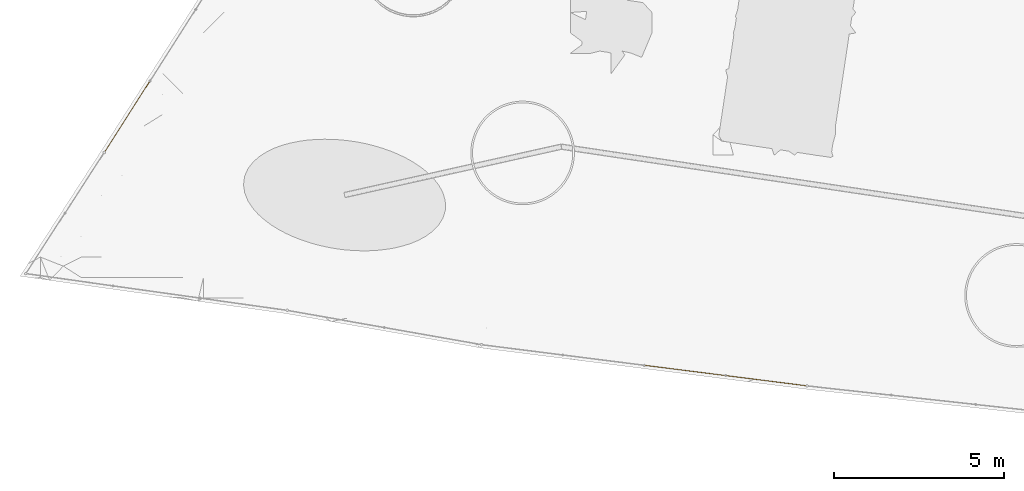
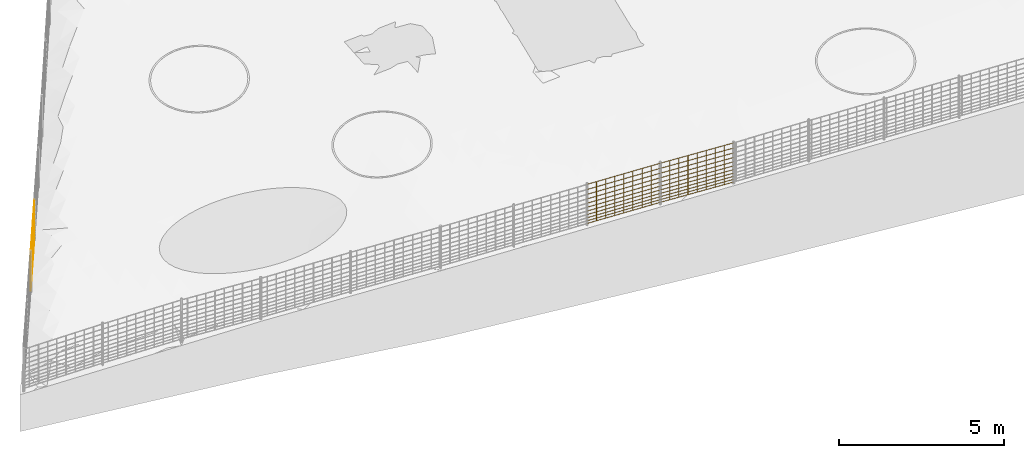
# Not in any storey, part 29 of 72: 3 railings.
"""IFC4 model written with IfcOpenShell, lengths in metres."""

from ifc_helpers import new_model, si_unit, direction, frame, origin_with_axes, place, context, subcontext, project, spatial, polygons, material, element, save


model = new_model("IFC4")

# Units and contexts
model_context = context("Model", 3, precision=1e-05, world=origin_with_axes(), true_north=direction((0.0, 1.0)))
body_context = subcontext(model_context, "Body", "Model", "MODEL_VIEW")
ifc_project = project(units=[si_unit("AREAUNIT", "SQUARE_METRE"), si_unit("VOLUMEUNIT", "CUBIC_METRE"), si_unit("LENGTHUNIT", "METRE")], contexts=[model_context])

# Site
site_placement = place(None, origin_with_axes())
site = spatial("IfcSite", under=ifc_project, at=site_placement, Name="Lares · Rua das Mercês · artigo 4771")

# Railings
ifc_material = material(Name="Aço galvanizado / Stahl verzinkt", Category="steel")
railing_1_placement = place(site_placement, frame((0.0, 0.0, 0.0), z_axis=(0.0, 0.0, 1.0), x_axis=(1.0, -1.03767253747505e-17, 0.0)))
element("IfcRailing", 1, at=railing_1_placement, inside=site, material=ifc_material, Name="Vedação · rede ovelheira 1.032", ObjectType="SHEEP_WIRE_FENCE", PredefinedType="USERDEFINED", context=body_context, shape_type="Tessellation", body=[
    polygons([(11.0596490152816, 1.65169743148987, 12.1058320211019), (11.0595225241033, 1.65020147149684, 12.1043333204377), (11.0592721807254, 1.64872119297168, 12.1058320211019), (11.0593986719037, 1.65021715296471, 12.1073307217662), (8.66400478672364, 1.95502040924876, 12.0052574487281), (8.66387829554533, 1.95352444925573, 12.0037587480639), (8.66362795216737, 1.95204417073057, 12.0052574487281), (8.66375444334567, 1.9535401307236, 12.0067561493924), (11.0596490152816, 1.65169743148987, 12.2058320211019), (11.0595225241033, 1.65020147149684, 12.2043333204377), (11.0592721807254, 1.64872119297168, 12.2058320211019), (11.0593986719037, 1.65021715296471, 12.2073307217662), (8.66400478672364, 1.95502040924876, 12.1052574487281), (8.66387829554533, 1.95352444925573, 12.1037587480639), (8.66362795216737, 1.95204417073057, 12.1052574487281), (8.66375444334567, 1.9535401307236, 12.1067561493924), (11.0596490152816, 1.65169743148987, 12.3158320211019), (11.0595225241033, 1.65020147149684, 12.3143333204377), (11.0592721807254, 1.64872119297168, 12.3158320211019), (11.0593986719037, 1.65021715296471, 12.3173307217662), (8.66400478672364, 1.95502040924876, 12.2152574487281), (8.66387829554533, 1.95352444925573, 12.2137587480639), (8.66362795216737, 1.95204417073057, 12.2152574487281), (8.66375444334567, 1.9535401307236, 12.2167561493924), (11.0596490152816, 1.65169743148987, 12.4358320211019), (11.0595225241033, 1.65020147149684, 12.4343333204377), (11.0592721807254, 1.64872119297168, 12.4358320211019), (11.0593986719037, 1.65021715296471, 12.4373307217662), (8.66400478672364, 1.95502040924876, 12.3352574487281), (8.66387829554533, 1.95352444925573, 12.3337587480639), (8.66362795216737, 1.95204417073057, 12.3352574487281), (8.66375444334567, 1.9535401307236, 12.3367561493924), (11.0596490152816, 1.65169743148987, 12.5658320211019), (11.0595225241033, 1.65020147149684, 12.5643333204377), (11.0592721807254, 1.64872119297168, 12.5658320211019), (11.0593986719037, 1.65021715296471, 12.5673307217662), (8.66400478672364, 1.95502040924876, 12.4652574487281), (8.66387829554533, 1.95352444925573, 12.4637587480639), (8.66362795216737, 1.95204417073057, 12.4652574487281), (8.66375444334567, 1.9535401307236, 12.4667561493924), (11.0596490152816, 1.65169743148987, 12.7058320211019), (11.0595225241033, 1.65020147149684, 12.7043333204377), (11.0592721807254, 1.64872119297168, 12.7058320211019), (11.0593986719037, 1.65021715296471, 12.7073307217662), (8.66400478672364, 1.95502040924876, 12.6052574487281), (8.66387829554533, 1.95352444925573, 12.6037587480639), (8.66362795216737, 1.95204417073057, 12.6052574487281), (8.66375444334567, 1.9535401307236, 12.6067561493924), (11.0596490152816, 1.65169743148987, 12.8558320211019), (11.0595225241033, 1.65020147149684, 12.8543333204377), (11.0592721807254, 1.64872119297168, 12.8558320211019), (11.0593986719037, 1.65021715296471, 12.8573307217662), (8.66400478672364, 1.95502040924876, 12.7552574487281), (8.66387829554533, 1.95352444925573, 12.7537587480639), (8.66362795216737, 1.95204417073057, 12.7552574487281), (8.66375444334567, 1.9535401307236, 12.7567561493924), (11.0596490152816, 1.65169743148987, 13.0158320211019), (11.0595225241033, 1.65020147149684, 13.0143333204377), (11.0592721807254, 1.64872119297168, 13.0158320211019), (11.0593986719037, 1.65021715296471, 13.0173307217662), (8.66400478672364, 1.95502040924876, 12.9152574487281), (8.66387829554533, 1.95352444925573, 12.9137587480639), (8.66362795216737, 1.95204417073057, 12.9152574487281), (8.66375444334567, 1.9535401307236, 12.9167561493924), (11.0596490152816, 1.65169743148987, 13.1858320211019), (11.0595225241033, 1.65020147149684, 13.1843333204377), (11.0592721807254, 1.64872119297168, 13.1858320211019), (11.0593986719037, 1.65021715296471, 13.1873307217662), (8.66400478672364, 1.95502040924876, 13.0852574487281), (8.66387829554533, 1.95352444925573, 13.0837587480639), (8.66362795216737, 1.95204417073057, 13.0852574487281), (8.66375444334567, 1.9535401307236, 13.0867561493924), (11.0596490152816, 1.65169743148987, 13.3658320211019), (11.0595225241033, 1.65020147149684, 13.3643333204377), (11.0592721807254, 1.64872119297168, 13.3658320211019), (11.0593986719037, 1.65021715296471, 13.3673307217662), (8.66400478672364, 1.95502040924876, 13.2652574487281), (8.66387829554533, 1.95352444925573, 13.2637587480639), (8.66362795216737, 1.95204417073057, 13.2652574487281), (8.66375444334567, 1.9535401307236, 13.2667561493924), (11.0596490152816, 1.65169743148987, 13.5558320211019), (11.0595225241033, 1.65020147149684, 13.5543333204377), (11.0592721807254, 1.64872119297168, 13.5558320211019), (11.0593986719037, 1.65021715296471, 13.5573307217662), (8.66400478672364, 1.95502040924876, 13.4552574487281), (8.66387829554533, 1.95352444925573, 13.4537587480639), (8.66362795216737, 1.95204417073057, 13.4552574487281), (8.66375444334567, 1.9535401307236, 13.4567561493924), (10.7618367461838, 1.68939276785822, 12.0933370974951), (10.7603367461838, 1.68789276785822, 12.0933370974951), (10.7618367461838, 1.68639276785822, 12.0933370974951), (10.7633367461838, 1.68789276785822, 12.0933370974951), (10.7618367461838, 1.68939276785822, 13.5433370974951), (10.7603367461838, 1.68789276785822, 13.5433370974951), (10.7618367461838, 1.68639276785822, 13.5433370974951), (10.7633367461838, 1.68789276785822, 13.5433370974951), (10.4642128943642, 1.72707622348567, 12.0808421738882), (10.4627128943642, 1.72557622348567, 12.0808421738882), (10.4642128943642, 1.72407622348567, 12.0808421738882), (10.4657128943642, 1.72557622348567, 12.0808421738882), (10.4642128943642, 1.72707622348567, 13.5308421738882), (10.4627128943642, 1.72557622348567, 13.5308421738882), (10.4642128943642, 1.72407622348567, 13.5308421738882), (10.4657128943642, 1.72557622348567, 13.5308421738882), (10.1665890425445, 1.76475967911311, 12.0683472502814), (10.1650890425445, 1.76325967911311, 12.0683472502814), (10.1665890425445, 1.76175967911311, 12.0683472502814), (10.1680890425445, 1.76325967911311, 12.0683472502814), (10.1665890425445, 1.76475967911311, 13.5183472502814), (10.1650890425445, 1.76325967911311, 13.5183472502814), (10.1665890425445, 1.76175967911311, 13.5183472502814), (10.1680890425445, 1.76325967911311, 13.5183472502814), (9.86896519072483, 1.80244313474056, 12.0558523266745), (9.86746519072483, 1.80094313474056, 12.0558523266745), (9.86896519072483, 1.79944313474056, 12.0558523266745), (9.87046519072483, 1.80094313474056, 12.0558523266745), (9.86896519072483, 1.80244313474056, 13.5058523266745), (9.86746519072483, 1.80094313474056, 13.5058523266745), (9.86896519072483, 1.79944313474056, 13.5058523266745), (9.87046519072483, 1.80094313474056, 13.5058523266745), (9.57134133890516, 1.840126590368, 12.0433574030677), (9.56984133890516, 1.838626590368, 12.0433574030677), (9.57134133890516, 1.837126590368, 12.0433574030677), (9.57284133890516, 1.838626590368, 12.0433574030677), (9.57134133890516, 1.840126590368, 13.4933574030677), (9.56984133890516, 1.838626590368, 13.4933574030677), (9.57134133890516, 1.837126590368, 13.4933574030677), (9.57284133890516, 1.838626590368, 13.4933574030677), (9.2737174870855, 1.87781004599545, 12.0308624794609), (9.27221748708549, 1.87631004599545, 12.0308624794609), (9.2737174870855, 1.87481004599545, 12.0308624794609), (9.2752174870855, 1.87631004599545, 12.0308624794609), (9.2737174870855, 1.87781004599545, 13.4808624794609), (9.27221748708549, 1.87631004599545, 13.4808624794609), (9.2737174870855, 1.87481004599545, 13.4808624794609), (9.2752174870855, 1.87631004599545, 13.4808624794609), (8.97609363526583, 1.9154935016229, 12.018367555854), (8.97459363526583, 1.9139935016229, 12.018367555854), (8.97609363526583, 1.9124935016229, 12.018367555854), (8.97759363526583, 1.9139935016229, 12.018367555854), (8.97609363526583, 1.9154935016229, 13.468367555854), (8.97459363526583, 1.9139935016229, 13.468367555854), (8.97609363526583, 1.9124935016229, 13.468367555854), (8.97759363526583, 1.9139935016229, 13.468367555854)], [[[4, 3, 2, 1]], [[5, 6, 7, 8]], [[1, 2, 6, 5]], [[2, 3, 7, 6]], [[3, 4, 8, 7]], [[4, 1, 5, 8]], [[12, 11, 10, 9]], [[13, 14, 15, 16]], [[9, 10, 14, 13]], [[10, 11, 15, 14]], [[11, 12, 16, 15]], [[12, 9, 13, 16]], [[20, 19, 18, 17]], [[21, 22, 23, 24]], [[17, 18, 22, 21]], [[18, 19, 23, 22]], [[19, 20, 24, 23]], [[20, 17, 21, 24]], [[28, 27, 26, 25]], [[29, 30, 31, 32]], [[25, 26, 30, 29]], [[26, 27, 31, 30]], [[27, 28, 32, 31]], [[28, 25, 29, 32]], [[36, 35, 34, 33]], [[37, 38, 39, 40]], [[33, 34, 38, 37]], [[34, 35, 39, 38]], [[35, 36, 40, 39]], [[36, 33, 37, 40]], [[44, 43, 42, 41]], [[45, 46, 47, 48]], [[41, 42, 46, 45]], [[42, 43, 47, 46]], [[43, 44, 48, 47]], [[44, 41, 45, 48]], [[52, 51, 50, 49]], [[53, 54, 55, 56]], [[49, 50, 54, 53]], [[50, 51, 55, 54]], [[51, 52, 56, 55]], [[52, 49, 53, 56]], [[60, 59, 58, 57]], [[61, 62, 63, 64]], [[57, 58, 62, 61]], [[58, 59, 63, 62]], [[59, 60, 64, 63]], [[60, 57, 61, 64]], [[68, 67, 66, 65]], [[69, 70, 71, 72]], [[65, 66, 70, 69]], [[66, 67, 71, 70]], [[67, 68, 72, 71]], [[68, 65, 69, 72]], [[76, 75, 74, 73]], [[77, 78, 79, 80]], [[73, 74, 78, 77]], [[74, 75, 79, 78]], [[75, 76, 80, 79]], [[76, 73, 77, 80]], [[84, 83, 82, 81]], [[85, 86, 87, 88]], [[81, 82, 86, 85]], [[82, 83, 87, 86]], [[83, 84, 88, 87]], [[84, 81, 85, 88]], [[92, 91, 90, 89]], [[93, 94, 95, 96]], [[89, 90, 94, 93]], [[90, 91, 95, 94]], [[91, 92, 96, 95]], [[92, 89, 93, 96]], [[100, 99, 98, 97]], [[101, 102, 103, 104]], [[97, 98, 102, 101]], [[98, 99, 103, 102]], [[99, 100, 104, 103]], [[100, 97, 101, 104]], [[108, 107, 106, 105]], [[109, 110, 111, 112]], [[105, 106, 110, 109]], [[106, 107, 111, 110]], [[107, 108, 112, 111]], [[108, 105, 109, 112]], [[116, 115, 114, 113]], [[117, 118, 119, 120]], [[113, 114, 118, 117]], [[114, 115, 119, 118]], [[115, 116, 120, 119]], [[116, 113, 117, 120]], [[124, 123, 122, 121]], [[125, 126, 127, 128]], [[121, 122, 126, 125]], [[122, 123, 127, 126]], [[123, 124, 128, 127]], [[124, 121, 125, 128]], [[132, 131, 130, 129]], [[133, 134, 135, 136]], [[129, 130, 134, 133]], [[130, 131, 135, 134]], [[131, 132, 136, 135]], [[132, 129, 133, 136]], [[140, 139, 138, 137]], [[141, 142, 143, 144]], [[137, 138, 142, 141]], [[138, 139, 143, 142]], [[139, 140, 144, 143]], [[140, 137, 141, 144]]]),
])
railing_2_placement = place(site_placement, frame((0.0, 0.0, 0.0), z_axis=(0.0, 0.0, 1.0), x_axis=(1.0, -1.03767253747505e-17, 0.0)))
element("IfcRailing", 2, at=railing_2_placement, inside=site, material=ifc_material, Name="Vedação · rede ovelheira 1.033", ObjectType="SHEEP_WIRE_FENCE", PredefinedType="USERDEFINED", context=body_context, shape_type="Tessellation", body=[
    polygons([(8.66400478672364, 1.95502040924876, 12.0052574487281), (8.66389746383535, 1.95352202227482, 12.0037596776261), (8.66362795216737, 1.95204417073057, 12.0052574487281), (8.66373527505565, 1.95354255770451, 12.0067552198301), (6.26836055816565, 2.25834338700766, 11.8734697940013), (6.26825323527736, 2.25684500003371, 11.8719720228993), (6.26798372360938, 2.25536714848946, 11.8734697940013), (6.26809104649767, 2.2568655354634, 11.8749675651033), (8.66400478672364, 1.95502040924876, 12.1052574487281), (8.66389746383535, 1.95352202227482, 12.1037596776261), (8.66362795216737, 1.95204417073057, 12.1052574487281), (8.66373527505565, 1.95354255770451, 12.1067552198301), (6.26836055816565, 2.25834338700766, 11.9734697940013), (6.26825323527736, 2.25684500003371, 11.9719720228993), (6.26798372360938, 2.25536714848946, 11.9734697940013), (6.26809104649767, 2.2568655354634, 11.9749675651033), (8.66400478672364, 1.95502040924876, 12.2152574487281), (8.66389746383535, 1.95352202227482, 12.2137596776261), (8.66362795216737, 1.95204417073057, 12.2152574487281), (8.66373527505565, 1.95354255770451, 12.2167552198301), (6.26836055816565, 2.25834338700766, 12.0834697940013), (6.26825323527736, 2.25684500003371, 12.0819720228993), (6.26798372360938, 2.25536714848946, 12.0834697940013), (6.26809104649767, 2.2568655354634, 12.0849675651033), (8.66400478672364, 1.95502040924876, 12.3352574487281), (8.66389746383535, 1.95352202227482, 12.3337596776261), (8.66362795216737, 1.95204417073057, 12.3352574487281), (8.66373527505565, 1.95354255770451, 12.3367552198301), (6.26836055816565, 2.25834338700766, 12.2034697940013), (6.26825323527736, 2.25684500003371, 12.2019720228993), (6.26798372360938, 2.25536714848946, 12.2034697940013), (6.26809104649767, 2.2568655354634, 12.2049675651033), (8.66400478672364, 1.95502040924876, 12.4652574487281), (8.66389746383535, 1.95352202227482, 12.4637596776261), (8.66362795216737, 1.95204417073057, 12.4652574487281), (8.66373527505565, 1.95354255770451, 12.4667552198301), (6.26836055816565, 2.25834338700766, 12.3334697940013), (6.26825323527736, 2.25684500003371, 12.3319720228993), (6.26798372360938, 2.25536714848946, 12.3334697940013), (6.26809104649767, 2.2568655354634, 12.3349675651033), (8.66400478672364, 1.95502040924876, 12.6052574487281), (8.66389746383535, 1.95352202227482, 12.6037596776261), (8.66362795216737, 1.95204417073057, 12.6052574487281), (8.66373527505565, 1.95354255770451, 12.6067552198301), (6.26836055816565, 2.25834338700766, 12.4734697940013), (6.26825323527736, 2.25684500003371, 12.4719720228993), (6.26798372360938, 2.25536714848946, 12.4734697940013), (6.26809104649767, 2.2568655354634, 12.4749675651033), (8.66400478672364, 1.95502040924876, 12.7552574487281), (8.66389746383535, 1.95352202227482, 12.7537596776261), (8.66362795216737, 1.95204417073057, 12.7552574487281), (8.66373527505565, 1.95354255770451, 12.7567552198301), (6.26836055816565, 2.25834338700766, 12.6234697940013), (6.26825323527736, 2.25684500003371, 12.6219720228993), (6.26798372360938, 2.25536714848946, 12.6234697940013), (6.26809104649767, 2.2568655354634, 12.6249675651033), (8.66400478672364, 1.95502040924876, 12.9152574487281), (8.66389746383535, 1.95352202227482, 12.9137596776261), (8.66362795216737, 1.95204417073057, 12.9152574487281), (8.66373527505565, 1.95354255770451, 12.9167552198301), (6.26836055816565, 2.25834338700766, 12.7834697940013), (6.26825323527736, 2.25684500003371, 12.7819720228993), (6.26798372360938, 2.25536714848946, 12.7834697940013), (6.26809104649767, 2.2568655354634, 12.7849675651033), (8.66400478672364, 1.95502040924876, 13.0852574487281), (8.66389746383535, 1.95352202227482, 13.0837596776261), (8.66362795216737, 1.95204417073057, 13.0852574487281), (8.66373527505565, 1.95354255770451, 13.0867552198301), (6.26836055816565, 2.25834338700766, 12.9534697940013), (6.26825323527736, 2.25684500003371, 12.9519720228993), (6.26798372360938, 2.25536714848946, 12.9534697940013), (6.26809104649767, 2.2568655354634, 12.9549675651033), (8.66400478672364, 1.95502040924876, 13.2652574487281), (8.66389746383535, 1.95352202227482, 13.2637596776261), (8.66362795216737, 1.95204417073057, 13.2652574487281), (8.66373527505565, 1.95354255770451, 13.2667552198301), (6.26836055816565, 2.25834338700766, 13.1334697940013), (6.26825323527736, 2.25684500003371, 13.1319720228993), (6.26798372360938, 2.25536714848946, 13.1334697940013), (6.26809104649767, 2.2568655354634, 13.1349675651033), (8.66400478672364, 1.95502040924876, 13.4552574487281), (8.66389746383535, 1.95352202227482, 13.4537596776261), (8.66362795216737, 1.95204417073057, 13.4552574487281), (8.66373527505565, 1.95354255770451, 13.4567552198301), (6.26836055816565, 2.25834338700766, 13.3234697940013), (6.26825323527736, 2.25684500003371, 13.3219720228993), (6.26798372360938, 2.25536714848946, 13.3234697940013), (6.26809104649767, 2.2568655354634, 13.3249675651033), (8.36619251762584, 1.99271574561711, 11.9888847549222), (8.36469251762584, 1.99121574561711, 11.9888847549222), (8.36619251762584, 1.98971574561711, 11.9888847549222), (8.36769251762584, 1.99121574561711, 11.9888847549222), (8.36619251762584, 1.99271574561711, 13.4388847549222), (8.36469251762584, 1.99121574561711, 13.4388847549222), (8.36619251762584, 1.98971574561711, 13.4388847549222), (8.36769251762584, 1.99121574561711, 13.4388847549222), (8.06856866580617, 2.03039920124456, 11.9725120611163), (8.06706866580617, 2.02889920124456, 11.9725120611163), (8.06856866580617, 2.02739920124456, 11.9725120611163), (8.07006866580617, 2.02889920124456, 11.9725120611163), (8.06856866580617, 2.03039920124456, 13.4225120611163), (8.06706866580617, 2.02889920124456, 13.4225120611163), (8.06856866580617, 2.02739920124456, 13.4225120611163), (8.07006866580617, 2.02889920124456, 13.4225120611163), (7.77094481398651, 2.068082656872, 11.9561393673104), (7.76944481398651, 2.066582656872, 11.9561393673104), (7.77094481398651, 2.065082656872, 11.9561393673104), (7.77244481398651, 2.066582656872, 11.9561393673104), (7.77094481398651, 2.068082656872, 13.4061393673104), (7.76944481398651, 2.066582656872, 13.4061393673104), (7.77094481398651, 2.065082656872, 13.4061393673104), (7.77244481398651, 2.066582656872, 13.4061393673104), (7.47332096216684, 2.10576611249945, 11.9397666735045), (7.47182096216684, 2.10426611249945, 11.9397666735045), (7.47332096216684, 2.10276611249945, 11.9397666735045), (7.47482096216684, 2.10426611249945, 11.9397666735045), (7.47332096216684, 2.10576611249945, 13.3897666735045), (7.47182096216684, 2.10426611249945, 13.3897666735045), (7.47332096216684, 2.10276611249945, 13.3897666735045), (7.47482096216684, 2.10426611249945, 13.3897666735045), (7.17569711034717, 2.1434495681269, 11.9233939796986), (7.17419711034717, 2.1419495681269, 11.9233939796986), (7.17569711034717, 2.1404495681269, 11.9233939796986), (7.17719711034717, 2.1419495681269, 11.9233939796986), (7.17569711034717, 2.1434495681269, 13.3733939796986), (7.17419711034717, 2.1419495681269, 13.3733939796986), (7.17569711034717, 2.1404495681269, 13.3733939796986), (7.17719711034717, 2.1419495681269, 13.3733939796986), (6.87807325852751, 2.18113302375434, 11.9070212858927), (6.87657325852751, 2.17963302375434, 11.9070212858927), (6.87807325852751, 2.17813302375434, 11.9070212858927), (6.87957325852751, 2.17963302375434, 11.9070212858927), (6.87807325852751, 2.18113302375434, 13.3570212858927), (6.87657325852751, 2.17963302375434, 13.3570212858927), (6.87807325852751, 2.17813302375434, 13.3570212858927), (6.87957325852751, 2.17963302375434, 13.3570212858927), (6.58044940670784, 2.21881647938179, 11.8906485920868), (6.57894940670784, 2.21731647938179, 11.8906485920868), (6.58044940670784, 2.21581647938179, 11.8906485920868), (6.58194940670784, 2.21731647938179, 11.8906485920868), (6.58044940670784, 2.21881647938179, 13.3406485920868), (6.57894940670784, 2.21731647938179, 13.3406485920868), (6.58044940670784, 2.21581647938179, 13.3406485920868), (6.58194940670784, 2.21731647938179, 13.3406485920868)], [[[4, 3, 2, 1]], [[5, 6, 7, 8]], [[1, 2, 6, 5]], [[2, 3, 7, 6]], [[3, 4, 8, 7]], [[4, 1, 5, 8]], [[12, 11, 10, 9]], [[13, 14, 15, 16]], [[9, 10, 14, 13]], [[10, 11, 15, 14]], [[11, 12, 16, 15]], [[12, 9, 13, 16]], [[20, 19, 18, 17]], [[21, 22, 23, 24]], [[17, 18, 22, 21]], [[18, 19, 23, 22]], [[19, 20, 24, 23]], [[20, 17, 21, 24]], [[28, 27, 26, 25]], [[29, 30, 31, 32]], [[25, 26, 30, 29]], [[26, 27, 31, 30]], [[27, 28, 32, 31]], [[28, 25, 29, 32]], [[36, 35, 34, 33]], [[37, 38, 39, 40]], [[33, 34, 38, 37]], [[34, 35, 39, 38]], [[35, 36, 40, 39]], [[36, 33, 37, 40]], [[44, 43, 42, 41]], [[45, 46, 47, 48]], [[41, 42, 46, 45]], [[42, 43, 47, 46]], [[43, 44, 48, 47]], [[44, 41, 45, 48]], [[52, 51, 50, 49]], [[53, 54, 55, 56]], [[49, 50, 54, 53]], [[50, 51, 55, 54]], [[51, 52, 56, 55]], [[52, 49, 53, 56]], [[60, 59, 58, 57]], [[61, 62, 63, 64]], [[57, 58, 62, 61]], [[58, 59, 63, 62]], [[59, 60, 64, 63]], [[60, 57, 61, 64]], [[68, 67, 66, 65]], [[69, 70, 71, 72]], [[65, 66, 70, 69]], [[66, 67, 71, 70]], [[67, 68, 72, 71]], [[68, 65, 69, 72]], [[76, 75, 74, 73]], [[77, 78, 79, 80]], [[73, 74, 78, 77]], [[74, 75, 79, 78]], [[75, 76, 80, 79]], [[76, 73, 77, 80]], [[84, 83, 82, 81]], [[85, 86, 87, 88]], [[81, 82, 86, 85]], [[82, 83, 87, 86]], [[83, 84, 88, 87]], [[84, 81, 85, 88]], [[92, 91, 90, 89]], [[93, 94, 95, 96]], [[89, 90, 94, 93]], [[90, 91, 95, 94]], [[91, 92, 96, 95]], [[92, 89, 93, 96]], [[100, 99, 98, 97]], [[101, 102, 103, 104]], [[97, 98, 102, 101]], [[98, 99, 103, 102]], [[99, 100, 104, 103]], [[100, 97, 101, 104]], [[108, 107, 106, 105]], [[109, 110, 111, 112]], [[105, 106, 110, 109]], [[106, 107, 111, 110]], [[107, 108, 112, 111]], [[108, 105, 109, 112]], [[116, 115, 114, 113]], [[117, 118, 119, 120]], [[113, 114, 118, 117]], [[114, 115, 119, 118]], [[115, 116, 120, 119]], [[116, 113, 117, 120]], [[124, 123, 122, 121]], [[125, 126, 127, 128]], [[121, 122, 126, 125]], [[122, 123, 127, 126]], [[123, 124, 128, 127]], [[124, 121, 125, 128]], [[132, 131, 130, 129]], [[133, 134, 135, 136]], [[129, 130, 134, 133]], [[130, 131, 135, 134]], [[131, 132, 136, 135]], [[132, 129, 133, 136]], [[140, 139, 138, 137]], [[141, 142, 143, 144]], [[137, 138, 142, 141]], [[138, 139, 143, 142]], [[139, 140, 144, 143]], [[140, 137, 141, 144]]]),
])
railing_3_placement = place(site_placement, frame((0.0, 0.0, 0.0), z_axis=(0.0, 0.0, 1.0), x_axis=(1.0, -1.03767253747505e-17, 0.0)))
element("IfcRailing", 3, at=railing_3_placement, inside=site, material=ifc_material, Name="Vedação · rede ovelheira 1.043", ObjectType="SHEEP_WIRE_FENCE", PredefinedType="USERDEFINED", context=body_context, shape_type="Tessellation", body=[
    polygons([(-9.62576145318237, 8.51774838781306, 11.1504140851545), (-9.62696913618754, 8.5186440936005, 11.1489176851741), (-9.62828874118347, 8.51936480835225, 11.1504140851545), (-9.6270810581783, 8.5184691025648, 11.1519104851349), (-8.2794387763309, 10.6227359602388, 11.3238426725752), (-8.28064645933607, 10.6236316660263, 11.3223462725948), (-8.281966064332, 10.624352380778, 11.3238426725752), (-8.28075838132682, 10.6234566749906, 11.3253390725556), (-9.62576145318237, 8.51774838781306, 11.2504140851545), (-9.62696913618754, 8.5186440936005, 11.2489176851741), (-9.62828874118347, 8.51936480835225, 11.2504140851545), (-9.6270810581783, 8.5184691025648, 11.2519104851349), (-8.2794387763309, 10.6227359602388, 11.4238426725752), (-8.28064645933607, 10.6236316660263, 11.4223462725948), (-8.281966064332, 10.624352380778, 11.4238426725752), (-8.28075838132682, 10.6234566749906, 11.4253390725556), (-9.62576145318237, 8.51774838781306, 11.3604140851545), (-9.62696913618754, 8.5186440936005, 11.3589176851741), (-9.62828874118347, 8.51936480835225, 11.3604140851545), (-9.6270810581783, 8.5184691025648, 11.3619104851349), (-8.2794387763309, 10.6227359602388, 11.5338426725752), (-8.28064645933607, 10.6236316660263, 11.5323462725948), (-8.281966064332, 10.624352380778, 11.5338426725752), (-8.28075838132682, 10.6234566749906, 11.5353390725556), (-9.62576145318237, 8.51774838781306, 11.4804140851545), (-9.62696913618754, 8.5186440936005, 11.4789176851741), (-9.62828874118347, 8.51936480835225, 11.4804140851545), (-9.6270810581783, 8.5184691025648, 11.4819104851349), (-8.2794387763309, 10.6227359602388, 11.6538426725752), (-8.28064645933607, 10.6236316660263, 11.6523462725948), (-8.281966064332, 10.624352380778, 11.6538426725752), (-8.28075838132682, 10.6234566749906, 11.6553390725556), (-9.62576145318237, 8.51774838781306, 11.6104140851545), (-9.62696913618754, 8.5186440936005, 11.6089176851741), (-9.62828874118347, 8.51936480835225, 11.6104140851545), (-9.6270810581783, 8.5184691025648, 11.6119104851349), (-8.2794387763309, 10.6227359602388, 11.7838426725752), (-8.28064645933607, 10.6236316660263, 11.7823462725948), (-8.281966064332, 10.624352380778, 11.7838426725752), (-8.28075838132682, 10.6234566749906, 11.7853390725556), (-9.62576145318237, 8.51774838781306, 11.7504140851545), (-9.62696913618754, 8.5186440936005, 11.7489176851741), (-9.62828874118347, 8.51936480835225, 11.7504140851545), (-9.6270810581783, 8.5184691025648, 11.7519104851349), (-8.2794387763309, 10.6227359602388, 11.9238426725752), (-8.28064645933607, 10.6236316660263, 11.9223462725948), (-8.281966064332, 10.624352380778, 11.9238426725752), (-8.28075838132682, 10.6234566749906, 11.9253390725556), (-9.62576145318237, 8.51774838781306, 11.9004140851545), (-9.62696913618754, 8.5186440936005, 11.8989176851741), (-9.62828874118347, 8.51936480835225, 11.9004140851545), (-9.6270810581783, 8.5184691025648, 11.9019104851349), (-8.2794387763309, 10.6227359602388, 12.0738426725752), (-8.28064645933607, 10.6236316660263, 12.0723462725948), (-8.281966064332, 10.624352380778, 12.0738426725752), (-8.28075838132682, 10.6234566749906, 12.0753390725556), (-9.62576145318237, 8.51774838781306, 12.0604140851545), (-9.62696913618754, 8.5186440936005, 12.0589176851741), (-9.62828874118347, 8.51936480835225, 12.0604140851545), (-9.6270810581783, 8.5184691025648, 12.0619104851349), (-8.2794387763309, 10.6227359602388, 12.2338426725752), (-8.28064645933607, 10.6236316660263, 12.2323462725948), (-8.281966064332, 10.624352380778, 12.2338426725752), (-8.28075838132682, 10.6234566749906, 12.2353390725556), (-9.62576145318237, 8.51774838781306, 12.2304140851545), (-9.62696913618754, 8.5186440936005, 12.2289176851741), (-9.62828874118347, 8.51936480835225, 12.2304140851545), (-9.6270810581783, 8.5184691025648, 12.2319104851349), (-8.2794387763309, 10.6227359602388, 12.4038426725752), (-8.28064645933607, 10.6236316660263, 12.4023462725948), (-8.281966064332, 10.624352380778, 12.4038426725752), (-8.28075838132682, 10.6234566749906, 12.4053390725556), (-9.62576145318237, 8.51774838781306, 12.4104140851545), (-9.62696913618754, 8.5186440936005, 12.4089176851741), (-9.62828874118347, 8.51936480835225, 12.4104140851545), (-9.6270810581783, 8.5184691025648, 12.4119104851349), (-8.2794387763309, 10.6227359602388, 12.5838426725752), (-8.28064645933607, 10.6236316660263, 12.5823462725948), (-8.281966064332, 10.624352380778, 12.5838426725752), (-8.28075838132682, 10.6234566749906, 12.5853390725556), (-9.62576145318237, 8.51774838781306, 12.6004140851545), (-9.62696913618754, 8.5186440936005, 12.5989176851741), (-9.62828874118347, 8.51936480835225, 12.6004140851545), (-9.6270810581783, 8.5184691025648, 12.6019104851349), (-8.2794387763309, 10.6227359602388, 12.7738426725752), (-8.28064645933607, 10.6236316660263, 12.7723462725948), (-8.281966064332, 10.624352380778, 12.7738426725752), (-8.28075838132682, 10.6234566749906, 12.7753390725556), (-9.46538304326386, 8.77278539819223, 11.1712362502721), (-9.46688304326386, 8.77128539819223, 11.1712362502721), (-9.46538304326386, 8.76978539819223, 11.1712362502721), (-9.46388304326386, 8.77128539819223, 11.1712362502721), (-9.46538304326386, 8.77278539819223, 12.6212362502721), (-9.46688304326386, 8.77128539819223, 12.6212362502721), (-9.46538304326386, 8.76978539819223, 12.6212362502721), (-9.46388304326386, 8.77128539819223, 12.6212362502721), (-9.3037409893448, 9.02551419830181, 11.1920584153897), (-9.3052409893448, 9.02401419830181, 11.1920584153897), (-9.3037409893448, 9.02251419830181, 11.1920584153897), (-9.3022409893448, 9.02401419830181, 11.1920584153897), (-9.3037409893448, 9.02551419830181, 12.6420584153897), (-9.3052409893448, 9.02401419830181, 12.6420584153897), (-9.3037409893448, 9.02251419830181, 12.6420584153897), (-9.3022409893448, 9.02401419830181, 12.6420584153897), (-9.14209893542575, 9.27824299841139, 11.2128805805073), (-9.14359893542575, 9.27674299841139, 11.2128805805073), (-9.14209893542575, 9.27524299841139, 11.2128805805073), (-9.14059893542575, 9.27674299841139, 11.2128805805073), (-9.14209893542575, 9.27824299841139, 12.6628805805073), (-9.14359893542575, 9.27674299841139, 12.6628805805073), (-9.14209893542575, 9.27524299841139, 12.6628805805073), (-9.14059893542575, 9.27674299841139, 12.6628805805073), (-8.98045688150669, 9.53097179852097, 11.2337027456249), (-8.98195688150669, 9.52947179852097, 11.2337027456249), (-8.98045688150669, 9.52797179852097, 11.2337027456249), (-8.97895688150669, 9.52947179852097, 11.2337027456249), (-8.98045688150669, 9.53097179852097, 12.6837027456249), (-8.98195688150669, 9.52947179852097, 12.6837027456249), (-8.98045688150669, 9.52797179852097, 12.6837027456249), (-8.97895688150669, 9.52947179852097, 12.6837027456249), (-8.81881482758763, 9.78370059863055, 11.2545249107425), (-8.82031482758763, 9.78220059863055, 11.2545249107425), (-8.81881482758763, 9.78070059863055, 11.2545249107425), (-8.81731482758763, 9.78220059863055, 11.2545249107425), (-8.81881482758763, 9.78370059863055, 12.7045249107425), (-8.82031482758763, 9.78220059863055, 12.7045249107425), (-8.81881482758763, 9.78070059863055, 12.7045249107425), (-8.81731482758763, 9.78220059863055, 12.7045249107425), (-8.65717277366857, 10.0364293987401, 11.2753470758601), (-8.65867277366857, 10.0349293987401, 11.2753470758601), (-8.65717277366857, 10.0334293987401, 11.2753470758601), (-8.65567277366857, 10.0349293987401, 11.2753470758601), (-8.65717277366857, 10.0364293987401, 12.7253470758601), (-8.65867277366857, 10.0349293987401, 12.7253470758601), (-8.65717277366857, 10.0334293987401, 12.7253470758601), (-8.65567277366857, 10.0349293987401, 12.7253470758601), (-8.49553071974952, 10.2891581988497, 11.2961692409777), (-8.49703071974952, 10.2876581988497, 11.2961692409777), (-8.49553071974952, 10.2861581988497, 11.2961692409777), (-8.49403071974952, 10.2876581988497, 11.2961692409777), (-8.49553071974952, 10.2891581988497, 12.7461692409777), (-8.49703071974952, 10.2876581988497, 12.7461692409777), (-8.49553071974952, 10.2861581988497, 12.7461692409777), (-8.49403071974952, 10.2876581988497, 12.7461692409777), (-8.33388866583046, 10.5418869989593, 11.3169914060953), (-8.33538866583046, 10.5403869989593, 11.3169914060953), (-8.33388866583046, 10.5388869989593, 11.3169914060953), (-8.33238866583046, 10.5403869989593, 11.3169914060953), (-8.33388866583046, 10.5418869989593, 12.7669914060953), (-8.33538866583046, 10.5403869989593, 12.7669914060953), (-8.33388866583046, 10.5388869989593, 12.7669914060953), (-8.33238866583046, 10.5403869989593, 12.7669914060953)], [[[4, 3, 2, 1]], [[5, 6, 7, 8]], [[1, 2, 6, 5]], [[2, 3, 7, 6]], [[3, 4, 8, 7]], [[4, 1, 5, 8]], [[12, 11, 10, 9]], [[13, 14, 15, 16]], [[9, 10, 14, 13]], [[10, 11, 15, 14]], [[11, 12, 16, 15]], [[12, 9, 13, 16]], [[20, 19, 18, 17]], [[21, 22, 23, 24]], [[17, 18, 22, 21]], [[18, 19, 23, 22]], [[19, 20, 24, 23]], [[20, 17, 21, 24]], [[28, 27, 26, 25]], [[29, 30, 31, 32]], [[25, 26, 30, 29]], [[26, 27, 31, 30]], [[27, 28, 32, 31]], [[28, 25, 29, 32]], [[36, 35, 34, 33]], [[37, 38, 39, 40]], [[33, 34, 38, 37]], [[34, 35, 39, 38]], [[35, 36, 40, 39]], [[36, 33, 37, 40]], [[44, 43, 42, 41]], [[45, 46, 47, 48]], [[41, 42, 46, 45]], [[42, 43, 47, 46]], [[43, 44, 48, 47]], [[44, 41, 45, 48]], [[52, 51, 50, 49]], [[53, 54, 55, 56]], [[49, 50, 54, 53]], [[50, 51, 55, 54]], [[51, 52, 56, 55]], [[52, 49, 53, 56]], [[60, 59, 58, 57]], [[61, 62, 63, 64]], [[57, 58, 62, 61]], [[58, 59, 63, 62]], [[59, 60, 64, 63]], [[60, 57, 61, 64]], [[68, 67, 66, 65]], [[69, 70, 71, 72]], [[65, 66, 70, 69]], [[66, 67, 71, 70]], [[67, 68, 72, 71]], [[68, 65, 69, 72]], [[76, 75, 74, 73]], [[77, 78, 79, 80]], [[73, 74, 78, 77]], [[74, 75, 79, 78]], [[75, 76, 80, 79]], [[76, 73, 77, 80]], [[84, 83, 82, 81]], [[85, 86, 87, 88]], [[81, 82, 86, 85]], [[82, 83, 87, 86]], [[83, 84, 88, 87]], [[84, 81, 85, 88]], [[92, 91, 90, 89]], [[93, 94, 95, 96]], [[89, 90, 94, 93]], [[90, 91, 95, 94]], [[91, 92, 96, 95]], [[92, 89, 93, 96]], [[100, 99, 98, 97]], [[101, 102, 103, 104]], [[97, 98, 102, 101]], [[98, 99, 103, 102]], [[99, 100, 104, 103]], [[100, 97, 101, 104]], [[108, 107, 106, 105]], [[109, 110, 111, 112]], [[105, 106, 110, 109]], [[106, 107, 111, 110]], [[107, 108, 112, 111]], [[108, 105, 109, 112]], [[116, 115, 114, 113]], [[117, 118, 119, 120]], [[113, 114, 118, 117]], [[114, 115, 119, 118]], [[115, 116, 120, 119]], [[116, 113, 117, 120]], [[124, 123, 122, 121]], [[125, 126, 127, 128]], [[121, 122, 126, 125]], [[122, 123, 127, 126]], [[123, 124, 128, 127]], [[124, 121, 125, 128]], [[132, 131, 130, 129]], [[133, 134, 135, 136]], [[129, 130, 134, 133]], [[130, 131, 135, 134]], [[131, 132, 136, 135]], [[132, 129, 133, 136]], [[140, 139, 138, 137]], [[141, 142, 143, 144]], [[137, 138, 142, 141]], [[138, 139, 143, 142]], [[139, 140, 144, 143]], [[140, 137, 141, 144]], [[148, 147, 146, 145]], [[149, 150, 151, 152]], [[145, 146, 150, 149]], [[146, 147, 151, 150]], [[147, 148, 152, 151]], [[148, 145, 149, 152]]]),
])

save(model, "model.ifc")
